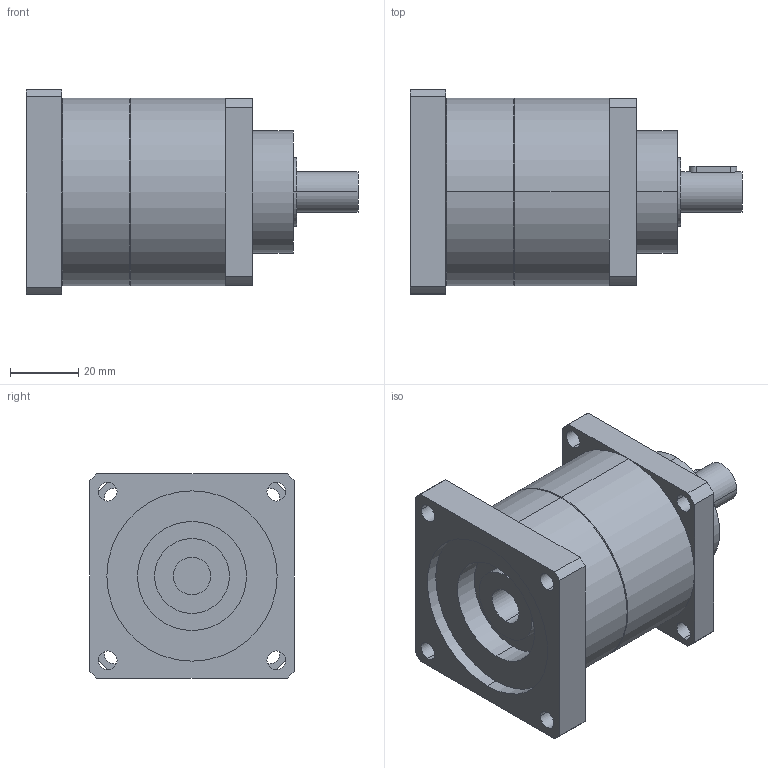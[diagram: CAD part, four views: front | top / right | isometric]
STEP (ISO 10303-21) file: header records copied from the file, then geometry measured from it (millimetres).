
FILE_DESCRIPTION(('CoCreate Modeling STEP Export'),'2;1');
FILE_NAME('GPT55_ig-3-4-5-7-10_12_B5A_11_P20.stp','2014-08-25T14:31:27',(''),(''),'CoCreate Modeling STEP processor for AP214 (Solid Model)','CoCreate Modeling 16.00C 25-Feb-2009 (C) Parametric Technology GmbH','');
FILE_SCHEMA(('AUTOMOTIVE_DESIGN { 1 0 10303 214 1 1 1 1 }'));
Length unit declared in the file: millimetre
Products named in the file (2): GPT55_ig-3-4-5-7-10_12_B5A_11_P20
Assembly tree (1 placements, depth 2):
  GPT55_ig-3-4-5-7-10_12_B5A_11_P20
    GPT55_ig-3-4-5-7-10_12_B5A_11_P20
Bounding box: 97.5 x 60 x 60 mm (x, y, z)
Volume: 175039.1 mm3; surface area: 26505.2 mm2
Topology: 1 solids, 1 shells, 77 faces, 204 edges, 139 vertices
Faces by surface type: cylinder 46, plane 27, cone 4
Entity records: 2515 total; most frequent: CARTESIAN_POINT 710, ORIENTED_EDGE 408, DIRECTION 318, EDGE_CURVE 204, VERTEX_POINT 139, AXIS2_PLACEMENT_3D 117, EDGE_LOOP 103, VECTOR 84
